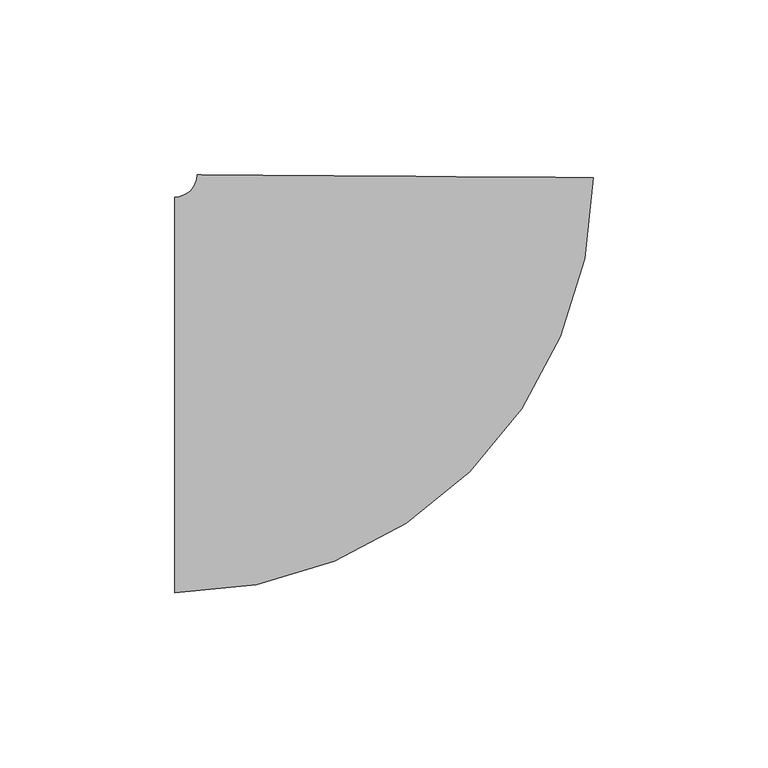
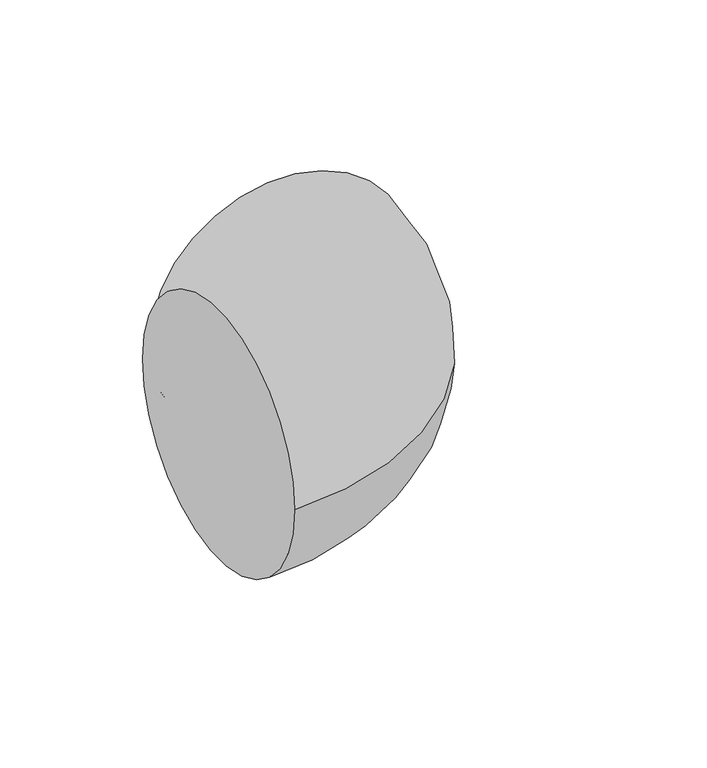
"""IFC4 building model written with IfcOpenShell, lengths in millimetres: pipe fitting geometry, M_Codo - Genérico : Estándar."""

from ifc_helpers import new_model, si_unit, point, frame, origin, place, context, project, spatial, circle_curve, ellipse_curve, trimmed, source, transform, mapped, element, save
from ifc_brep_helpers import plane_surface, revolved_surface, advanced_brep


def pipe_fitting_530662ba(model_context):
    return source(origin(), model_context, "Body", "AdvancedBrep", [
        advanced_brep(
        [(-62.4940491, -56.5875, 0.0), (-62.4940491, 56.5875, 0.0), (57.027963, 62.0923729, 0.0), (-56.1442079, 62.892601, 0.0)],
        [
            (0, 1, circle_curve(frame((-62.4940491, 0.0, 0.0), z_axis=(-1.0, 0.0, 0.0), x_axis=(0.0, 1.0, 0.0)), 56.5875)),
            (1, 0, circle_curve(frame((-62.4940491, 0.0, 0.0), z_axis=(-1.0, 0.0, 0.0), x_axis=(0.0, 1.0, 0.0)), 56.5875)),
            (2, 3, circle_curve(frame((0.4418776, 62.4924869, 0.0), z_axis=(0.007070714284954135, 0.999975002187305, 0.0), x_axis=(-0.999975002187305, 0.007070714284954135, 0.0)), 56.5875)),
            (3, 2, circle_curve(frame((0.4418776, 62.4924869, 0.0), z_axis=(0.007070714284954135, 0.999975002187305, 0.0), x_axis=(-0.999975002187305, 0.007070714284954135, 0.0)), 56.5875)),
            (3, 1, circle_curve(frame((-62.4940491, 62.9375, 0.0), z_axis=(0.0, 0.0, -1.0), x_axis=(0.0, -1.0, 0.0)), 6.35)),
            (0, 2, circle_curve(frame((-62.4940491, 62.9375, 0.0), z_axis=(0.0, 0.0, 1.0), x_axis=(0.0, -1.0, 0.0)), 119.525)),
        ],
        [
            plane_surface(frame((-62.4940491, 0.0, 0.0), z_axis=(-1.0, 0.0, 0.0), x_axis=(0.0, 0.0, 1.0))),
            plane_surface(frame((0.4418776, 62.4924869, 0.0), z_axis=(0.007070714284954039, 0.999975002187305, 0.0), x_axis=(0.0, 0.0, 1.0))),
            revolved_surface(trimmed(ellipse_curve(frame((-62.4940491, 0.0, 0.0), z_axis=(-1.0, 0.0, 0.0), x_axis=(0.0, 1.0, 0.0)), 56.5875, 56.5875), [point((-62.4940491, -56.5875, 0.0))], [point((-62.4940491, 56.5875, 0.0))], True, "CARTESIAN"), (-62.4940491, 62.9375, 0.0), (0.0, 0.0, 1.0)),
            revolved_surface(trimmed(ellipse_curve(frame((-62.4940491, 0.0, 0.0), z_axis=(-1.0, 0.0, 0.0), x_axis=(0.0, 1.0, 0.0)), 56.5875, 56.5875), [point((-62.4940491, 56.5875, 0.0))], [point((-62.4940491, -56.5875, 0.0))], True, "CARTESIAN"), (-62.4940491, 62.9375, 0.0), (0.0, 0.0, 1.0)),
        ],
        [
            (0, [[1, 2]]),
            (1, [[3, 4]]),
            (2, [[5, -1, 6, -4]]),
            (3, [[-6, -2, -5, -3]]),
        ],
    ),
    ])


if __name__ == "__main__":
    model = new_model("IFC4")
    model_context = context("Model", 3, world=origin())
    ifc_project = project(units=[si_unit("LENGTHUNIT", "METRE", prefix="MILLI")], contexts=[model_context])
    site = spatial("IfcSite", under=ifc_project)
    building = spatial("IfcBuilding", under=site)
    placement = place(None, origin())
    pipe_fitting_shape = pipe_fitting_530662ba(model_context)
    element("IfcPipeFitting", 1, ObjectType="M_Codo - Genérico : Estándar", at=placement, inside=building, context=model_context, shape_type="MappedRepresentation", body=[
        mapped(pipe_fitting_shape, transform((0.0, 0.0, 0.0), x_axis=(1.0, 0.0, 0.0), y_axis=(0.0, 1.0, 0.0), z_axis=(0.0, 0.0, 1.0))),
    ])
    save(model, "model.ifc")
